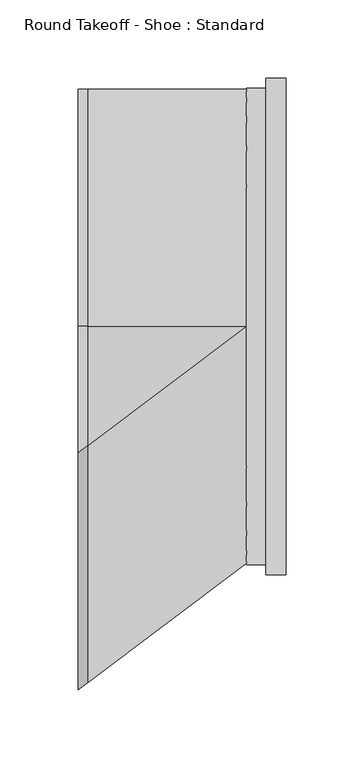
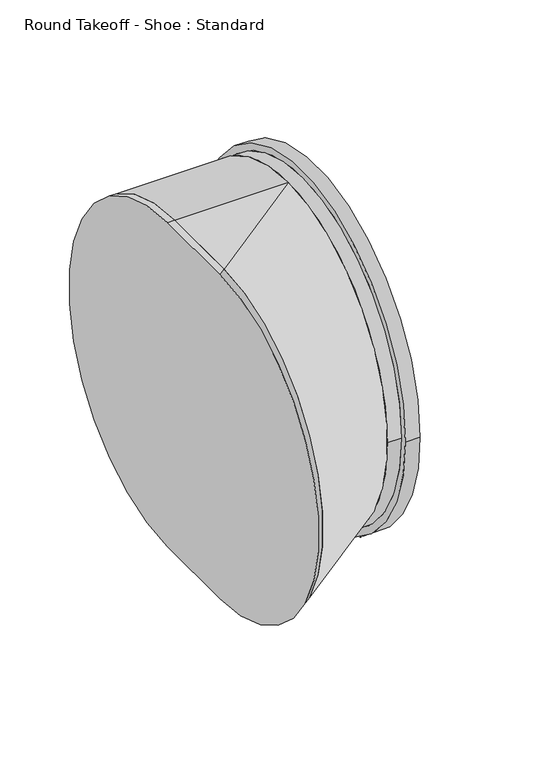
"""IFC4 building model written with IfcOpenShell, lengths in millimetres: duct fitting geometry, Round Takeoff - Shoe : Standard."""

from ifc_helpers import new_model, si_unit, point, frame, origin, place, context, project, spatial, circle_curve, trimmed, source, transform, mapped, element, save
from ifc_brep_helpers import plane_surface, cylinder_surface, extruded_surface, advanced_brep


def round_takeoff_shoe_standard_53aee1e3(model_context):
    return source(origin(), model_context, "Body", "AdvancedBrep", [
        advanced_brep(
        [(127.0, -158.75, 0.0), (127.0, 158.75, 0.0), (101.6, -152.4, 0.0), (101.6, 152.4, 0.0), (114.0743747, 152.4, 0.0), (114.0743747, -152.4, 0.0), (114.0743747, -158.75, 0.0), (114.0743747, 158.75, 0.0)],
        [
            (0, 1, circle_curve(frame((127.0, 0.0, 0.0), z_axis=(1.0, 0.0, 0.0), x_axis=(0.0, 1.0, 0.0)), 158.75)),
            (1, 0, circle_curve(frame((127.0, 0.0, 0.0), z_axis=(1.0, 0.0, 0.0), x_axis=(0.0, 1.0, 0.0)), 158.75)),
            (2, 3, circle_curve(frame((101.6, 0.0, 0.0), z_axis=(-1.0, 0.0, 0.0), x_axis=(0.0, 1.0, 0.0)), 152.4)),
            (3, 2, circle_curve(frame((101.6, 0.0, 0.0), z_axis=(-1.0, 0.0, 0.0), x_axis=(0.0, 1.0, 0.0)), 152.4)),
            (3, 4),
            (4, 5, circle_curve(frame((114.0743747, 0.0, 0.0), z_axis=(-1.0, 0.0, 0.0), x_axis=(0.0, 1.0, 0.0)), 152.4)),
            (5, 2),
            (5, 4, circle_curve(frame((114.0743747, 0.0, 0.0), z_axis=(-1.0, 0.0, 0.0), x_axis=(0.0, 1.0, 0.0)), 152.4)),
            (6, 7, circle_curve(frame((114.0743747, 0.0, 0.0), z_axis=(-1.0, 0.0, 0.0), x_axis=(0.0, 1.0, 0.0)), 158.75)),
            (7, 6, circle_curve(frame((114.0743747, 0.0, 0.0), z_axis=(-1.0, 0.0, 0.0), x_axis=(0.0, 1.0, 0.0)), 158.75)),
            (0, 6),
            (7, 1),
        ],
        [
            plane_surface(frame((127.0, 152.4, 0.0), z_axis=(1.0, 0.0, 0.0), x_axis=(0.0, 0.0, 1.0))),
            plane_surface(frame((101.6, 152.4, 0.0), z_axis=(-1.0, 0.0, 0.0), x_axis=(0.0, 0.0, -1.0))),
            cylinder_surface(frame((101.6, 0.0, 0.0), z_axis=(1.0, 0.0, 0.0), x_axis=(0.0, 1.0, 0.0)), 152.4),
            plane_surface(frame((114.0743747, 158.75, 0.0), z_axis=(-1.0, 0.0, 0.0), x_axis=(0.0, 0.0, -1.0))),
            cylinder_surface(frame((114.0743747, 0.0, 0.0), z_axis=(1.0, 0.0, 0.0), x_axis=(0.0, 1.0, 0.0)), 158.75),
        ],
        [
            (0, [[1, 2]]),
            (1, [[3, 4]]),
            (2, [[-4, 5, 6, 7]]),
            (2, [[-3, -7, 8, -5]]),
            (3, [[9, 10], [-6, -8]]),
            (4, [[-1, 11, -10, 12]]),
            (4, [[-2, -12, -9, -11]]),
        ],
    ),
        advanced_brep(
        [(-6.096, 0.0, -152.4), (-6.096, -80.772, -152.4), (-6.096, -80.772, 152.4), (-6.096, 0.0, 152.4), (0.0, 0.0, -152.4), (0.0, 0.0, 152.4), (0.0, -76.2, 152.4), (0.0, -76.2, -152.4)],
        [
            (0, 1),
            (1, 2, circle_curve(frame((-6.096, -80.772, 0.0), z_axis=(-1.0, 0.0, 0.0), x_axis=(0.0, 1.0, 0.0)), 152.4)),
            (2, 3),
            (3, 0, circle_curve(frame((-6.096, 0.0, 0.0), z_axis=(-1.0, 0.0, 0.0), x_axis=(0.0, 1.0, 0.0)), 152.4)),
            (4, 5, circle_curve(frame((0.0, 0.0, 0.0), z_axis=(1.0, 0.0, 0.0), x_axis=(0.0, 1.0, 0.0)), 152.4)),
            (5, 6),
            (6, 7, circle_curve(frame((0.0, -76.2, 0.0), z_axis=(1.0, 0.0, 0.0), x_axis=(0.0, 1.0, 0.0)), 152.4)),
            (7, 4),
            (7, 1),
            (0, 4),
            (6, 2),
            (5, 3),
        ],
        [
            plane_surface(frame((-6.096, -40.386, 0.0), z_axis=(-1.0, 0.0, 0.0), x_axis=(0.0, 1.0, 0.0))),
            plane_surface(frame((0.0, -38.1, 0.0), z_axis=(1.0, 0.0, 0.0), x_axis=(0.0, 1.0, 0.0))),
            plane_surface(frame((0.0, -38.1, -152.4), z_axis=(0.0, 0.0, -1.0), x_axis=(0.0, -1.0, 0.0))),
            extruded_surface(trimmed(circle_curve(frame((0.0, -76.2, 0.0), z_axis=(-1.0, 0.0, 0.0), x_axis=(0.0, 1.0, 0.0)), 152.4), [point((0.0, -76.2, -152.4))], [point((0.0, -76.2, 152.4))], True, "CARTESIAN"), (-6.096, -4.572000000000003, 0.0), 7.620000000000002),
            plane_surface(frame((0.0, -38.1, 152.4), z_axis=(0.0, 0.0, 1.0), x_axis=(0.0, 1.0, 0.0))),
            cylinder_surface(frame((0.0, 0.0, 0.0), z_axis=(-1.0, 0.0, 0.0), x_axis=(0.0, 1.0, 0.0)), 152.4),
        ],
        [
            (0, [[1, 2, 3, 4]]),
            (1, [[5, 6, 7, 8]]),
            (2, [[-8, 9, -1, 10]]),
            (3, [[-7, 11, -2, -9]]),
            (4, [[-6, 12, -3, -11]]),
            (5, [[-5, -10, -4, -12]]),
        ],
    ),
        advanced_brep(
        [(101.6, 0.0, -152.4), (101.6, 0.0, 152.4), (0.0, 0.0, -152.4), (0.0, -76.2, -152.4), (0.0, -76.2, 152.4), (0.0, 0.0, 152.4)],
        [
            (0, 1, circle_curve(frame((101.6, 0.0, 0.0), z_axis=(1.0, 0.0, 0.0), x_axis=(0.0, 1.0, 0.0)), 152.4)),
            (1, 0, circle_curve(frame((101.6, 0.0, 0.0), z_axis=(1.0, 0.0, 0.0), x_axis=(0.0, 1.0, 0.0)), 152.4)),
            (2, 3),
            (3, 4, circle_curve(frame((0.0, -76.2, 0.0), z_axis=(-1.0, 0.0, 0.0), x_axis=(0.0, 1.0, 0.0)), 152.4)),
            (4, 5),
            (5, 2, circle_curve(frame((0.0, 0.0, 0.0), z_axis=(-1.0, 0.0, 0.0), x_axis=(0.0, 1.0, 0.0)), 152.4)),
            (5, 1),
            (0, 2),
            (4, 1),
            (3, 0),
        ],
        [
            plane_surface(frame((101.6, 0.0, 0.0), z_axis=(1.0, 0.0, 0.0), x_axis=(0.0, 1.0, 0.0))),
            plane_surface(frame((0.0, -38.1, 0.0), z_axis=(-1.0, 0.0, 0.0), x_axis=(0.0, 1.0, 0.0))),
            cylinder_surface(frame((0.0, 0.0, 0.0), z_axis=(1.0, 0.0, 0.0), x_axis=(0.0, 1.0, 0.0)), 152.4),
            plane_surface(frame((0.0, -38.1, 152.4), z_axis=(0.0, 0.0, 1.0), x_axis=(0.0, -1.0, 0.0))),
            extruded_surface(trimmed(circle_curve(frame((0.0, -76.2, 0.0), z_axis=(1.0, 0.0, 0.0), x_axis=(0.0, 1.0, 0.0)), 152.4), [point((0.0, -76.2, 152.4))], [point((0.0, -76.2, -152.4))], True, "CARTESIAN"), (101.6, 76.2, 0.0), 127.0),
            plane_surface(frame((0.0, -38.1, -152.4), z_axis=(0.0, 0.0, -1.0), x_axis=(0.0, 1.0, 0.0))),
        ],
        [
            (0, [[1, 2]]),
            (1, [[3, 4, 5, 6]]),
            (2, [[-6, 7, -1, 8]]),
            (3, [[-5, 9, -7]]),
            (4, [[-4, 10, -2, -9]]),
            (5, [[-3, -8, -10]]),
        ],
    ),
    ])


if __name__ == "__main__":
    model = new_model("IFC4")
    model_context = context("Model", 3, world=origin())
    ifc_project = project(units=[si_unit("LENGTHUNIT", "METRE", prefix="MILLI")], contexts=[model_context])
    site = spatial("IfcSite", under=ifc_project)
    building = spatial("IfcBuilding", under=site)
    placement = place(None, origin())
    round_takeoff_shoe_standard_shape = round_takeoff_shoe_standard_53aee1e3(model_context)
    element("IfcDuctFitting", 1, ObjectType="Round Takeoff - Shoe : Standard", at=placement, inside=building, context=model_context, shape_type="MappedRepresentation", body=[
        mapped(round_takeoff_shoe_standard_shape, transform((0.0, 0.0, 0.0), x_axis=(1.0, 0.0, 0.0), y_axis=(0.0, 1.0, 0.0), z_axis=(0.0, 0.0, 1.0))),
    ])
    save(model, "model.ifc")
